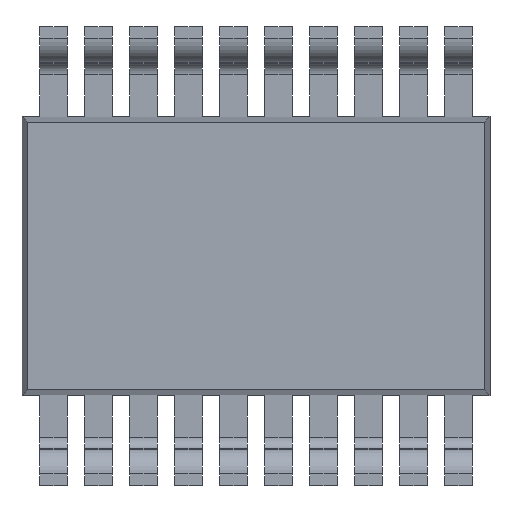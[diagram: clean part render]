
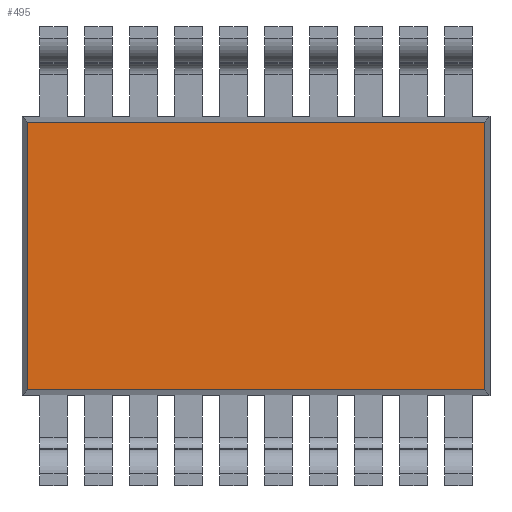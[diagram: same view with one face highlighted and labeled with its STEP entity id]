
A CAD part, front view. The second image highlights one B-rep face of the part: STEP entity #495.
In plain terms, the highlighted planar face has unit normal (0, -1, 0).
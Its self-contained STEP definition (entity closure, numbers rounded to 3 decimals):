
#474 = PLANE ( 'NONE',  #8802 ) ;
#495 = ADVANCED_FACE ( 'NONE', ( #6909 ), #474, .T. ) ;
#1411 = VECTOR ( 'NONE', #6254, 1000. ) ;
#2002 = ORIENTED_EDGE ( 'NONE', *, *, #5794, .F. ) ;
#2126 = VERTEX_POINT ( 'NONE', #9146 ) ;
#2459 = ORIENTED_EDGE ( 'NONE', *, *, #4682, .F. ) ;
#2585 = DIRECTION ( 'NONE',  ( -1., 0., 0. ) ) ;
#3458 = DIRECTION ( 'NONE',  ( 1., 0., 0. ) ) ;
#3500 = LINE ( 'NONE', #5102, #4885 ) ;
#3603 = VERTEX_POINT ( 'NONE', #4584 ) ;
#3631 = LINE ( 'NONE', #5787, #4345 ) ;
#3765 = CARTESIAN_POINT ( 'NONE',  ( -2.536, -0.525, -1.486 ) ) ;
#4279 = VERTEX_POINT ( 'NONE', #3765 ) ;
#4329 = CARTESIAN_POINT ( 'NONE',  ( 2.536, -0.525, 1.55 ) ) ;
#4345 = VECTOR ( 'NONE', #6496, 1000. ) ;
#4584 = CARTESIAN_POINT ( 'NONE',  ( 2.536, -0.525, 1.486 ) ) ;
#4682 = EDGE_CURVE ( 'NONE', #4279, #2126, #3631, .T. ) ;
#4805 = VECTOR ( 'NONE', #2585, 1000. ) ;
#4849 = LINE ( 'NONE', #4329, #1411 ) ;
#4885 = VECTOR ( 'NONE', #3458, 1000. ) ;
#5018 = CARTESIAN_POINT ( 'NONE',  ( 0., -0.525, 0. ) ) ;
#5102 = CARTESIAN_POINT ( 'NONE',  ( -2.6, -0.525, 1.486 ) ) ;
#5312 = EDGE_CURVE ( 'NONE', #7160, #4279, #6065, .T. ) ;
#5787 = CARTESIAN_POINT ( 'NONE',  ( -2.536, -0.525, 1.55 ) ) ;
#5794 = EDGE_CURVE ( 'NONE', #2126, #3603, #3500, .T. ) ;
#6065 = LINE ( 'NONE', #8875, #4805 ) ;
#6105 = ORIENTED_EDGE ( 'NONE', *, *, #5312, .F. ) ;
#6254 = DIRECTION ( 'NONE',  ( 0., 0., -1. ) ) ;
#6381 = DIRECTION ( 'NONE',  ( 0., -1., 0. ) ) ;
#6475 = DIRECTION ( 'NONE',  ( 0., 0., -1. ) ) ;
#6486 = EDGE_CURVE ( 'NONE', #3603, #7160, #4849, .T. ) ;
#6496 = DIRECTION ( 'NONE',  ( 0., 0., 1. ) ) ;
#6882 = ORIENTED_EDGE ( 'NONE', *, *, #6486, .F. ) ;
#6909 = FACE_OUTER_BOUND ( 'NONE', #9174, .T. ) ;
#7160 = VERTEX_POINT ( 'NONE', #8254 ) ;
#8254 = CARTESIAN_POINT ( 'NONE',  ( 2.536, -0.525, -1.486 ) ) ;
#8802 = AXIS2_PLACEMENT_3D ( 'NONE', #5018, #6381, #6475 ) ;
#8875 = CARTESIAN_POINT ( 'NONE',  ( -2.6, -0.525, -1.486 ) ) ;
#9146 = CARTESIAN_POINT ( 'NONE',  ( -2.536, -0.525, 1.486 ) ) ;
#9174 = EDGE_LOOP ( 'NONE', ( #6882, #2002, #2459, #6105 ) ) ;
